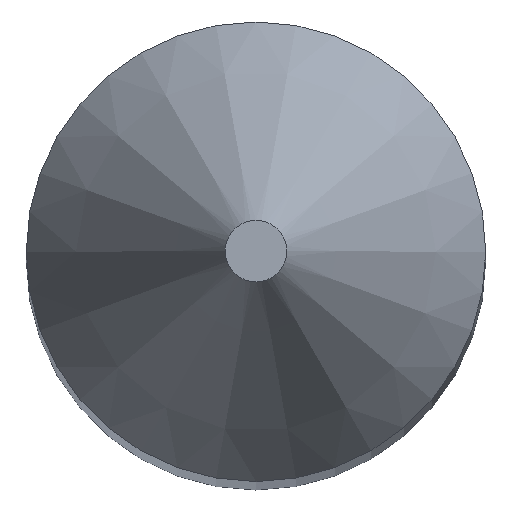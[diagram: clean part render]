
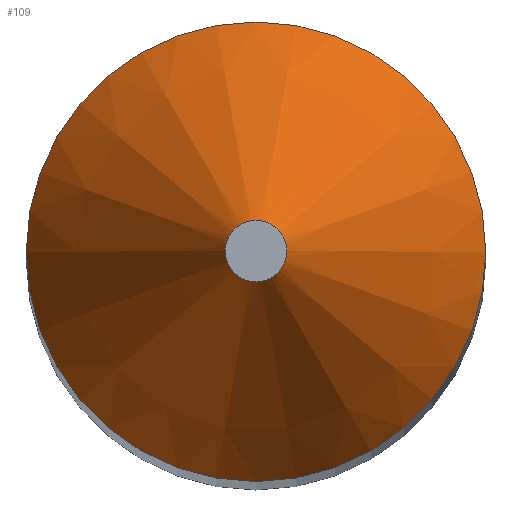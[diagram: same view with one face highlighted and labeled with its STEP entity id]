
A CAD part, top view. The second image highlights one B-rep face of the part: STEP entity #109.
In plain terms, the highlighted conical face has half-angle 30 degrees and reference radius 8 mm.
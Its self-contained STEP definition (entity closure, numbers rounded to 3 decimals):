
#43 = CYLINDRICAL_SURFACE('',#44,8.);
#44 = AXIS2_PLACEMENT_3D('',#45,#46,#47);
#45 = CARTESIAN_POINT('',(0.,0.,-470.));
#46 = DIRECTION('',(0.,0.,1.));
#47 = DIRECTION('',(1.,0.,-0.));
#60 = VERTEX_POINT('',#61);
#61 = CARTESIAN_POINT('',(8.,0.,-302.));
#82 = EDGE_CURVE('',#60,#60,#83,.T.);
#83 = SURFACE_CURVE('',#84,(#89,#96),.PCURVE_S1.);
#84 = CIRCLE('',#85,8.);
#85 = AXIS2_PLACEMENT_3D('',#86,#87,#88);
#86 = CARTESIAN_POINT('',(0.,0.,-302.));
#87 = DIRECTION('',(0.,0.,1.));
#88 = DIRECTION('',(1.,0.,-0.));
#89 = PCURVE('',#43,#90);
#90 = DEFINITIONAL_REPRESENTATION('',(#91),#95);
#91 = LINE('',#92,#93);
#92 = CARTESIAN_POINT('',(0.,168.));
#93 = VECTOR('',#94,1.);
#94 = DIRECTION('',(1.,0.));
#95 = ( GEOMETRIC_REPRESENTATION_CONTEXT(2) 
PARAMETRIC_REPRESENTATION_CONTEXT() REPRESENTATION_CONTEXT('2D SPACE',''
  ) );
#96 = PCURVE('',#97,#102);
#97 = CONICAL_SURFACE('',#98,8.,0.524);
#98 = AXIS2_PLACEMENT_3D('',#99,#100,#101);
#99 = CARTESIAN_POINT('',(0.,0.,-302.));
#100 = DIRECTION('',(-0.,-0.,-1.));
#101 = DIRECTION('',(1.,0.,-0.));
#102 = DEFINITIONAL_REPRESENTATION('',(#103),#107);
#103 = LINE('',#104,#105);
#104 = CARTESIAN_POINT('',(-0.,-0.));
#105 = VECTOR('',#106,1.);
#106 = DIRECTION('',(-1.,-0.));
#107 = ( GEOMETRIC_REPRESENTATION_CONTEXT(2) 
PARAMETRIC_REPRESENTATION_CONTEXT() REPRESENTATION_CONTEXT('2D SPACE',''
  ) );
#109 = ADVANCED_FACE('',(#110),#97,.T.);
#110 = FACE_BOUND('',#111,.T.);
#111 = EDGE_LOOP('',(#112,#113,#136,#163));
#112 = ORIENTED_EDGE('',*,*,#82,.T.);
#113 = ORIENTED_EDGE('',*,*,#114,.T.);
#114 = EDGE_CURVE('',#60,#115,#117,.T.);
#115 = VERTEX_POINT('',#116);
#116 = CARTESIAN_POINT('',(1.072,0.,-290.));
#117 = SEAM_CURVE('',#118,(#122,#129),.PCURVE_S1.);
#118 = LINE('',#119,#120);
#119 = CARTESIAN_POINT('',(8.,0.,-302.));
#120 = VECTOR('',#121,1.);
#121 = DIRECTION('',(-0.5,0.,0.866));
#122 = PCURVE('',#97,#123);
#123 = DEFINITIONAL_REPRESENTATION('',(#124),#128);
#124 = LINE('',#125,#126);
#125 = CARTESIAN_POINT('',(-0.,-0.));
#126 = VECTOR('',#127,1.);
#127 = DIRECTION('',(-0.,-1.));
#128 = ( GEOMETRIC_REPRESENTATION_CONTEXT(2) 
PARAMETRIC_REPRESENTATION_CONTEXT() REPRESENTATION_CONTEXT('2D SPACE',''
  ) );
#129 = PCURVE('',#97,#130);
#130 = DEFINITIONAL_REPRESENTATION('',(#131),#135);
#131 = LINE('',#132,#133);
#132 = CARTESIAN_POINT('',(-6.283,-0.));
#133 = VECTOR('',#134,1.);
#134 = DIRECTION('',(-0.,-1.));
#135 = ( GEOMETRIC_REPRESENTATION_CONTEXT(2) 
PARAMETRIC_REPRESENTATION_CONTEXT() REPRESENTATION_CONTEXT('2D SPACE',''
  ) );
#136 = ORIENTED_EDGE('',*,*,#137,.F.);
#137 = EDGE_CURVE('',#115,#115,#138,.T.);
#138 = SURFACE_CURVE('',#139,(#144,#151),.PCURVE_S1.);
#139 = CIRCLE('',#140,1.072);
#140 = AXIS2_PLACEMENT_3D('',#141,#142,#143);
#141 = CARTESIAN_POINT('',(0.,0.,-290.));
#142 = DIRECTION('',(0.,0.,1.));
#143 = DIRECTION('',(1.,0.,-0.));
#144 = PCURVE('',#97,#145);
#145 = DEFINITIONAL_REPRESENTATION('',(#146),#150);
#146 = LINE('',#147,#148);
#147 = CARTESIAN_POINT('',(-0.,-12.));
#148 = VECTOR('',#149,1.);
#149 = DIRECTION('',(-1.,-0.));
#150 = ( GEOMETRIC_REPRESENTATION_CONTEXT(2) 
PARAMETRIC_REPRESENTATION_CONTEXT() REPRESENTATION_CONTEXT('2D SPACE',''
  ) );
#151 = PCURVE('',#152,#157);
#152 = PLANE('',#153);
#153 = AXIS2_PLACEMENT_3D('',#154,#155,#156);
#154 = CARTESIAN_POINT('',(0.,0.,-290.));
#155 = DIRECTION('',(0.,0.,1.));
#156 = DIRECTION('',(1.,0.,-0.));
#157 = DEFINITIONAL_REPRESENTATION('',(#158),#162);
#158 = CIRCLE('',#159,1.072);
#159 = AXIS2_PLACEMENT_2D('',#160,#161);
#160 = CARTESIAN_POINT('',(0.,0.));
#161 = DIRECTION('',(1.,0.));
#162 = ( GEOMETRIC_REPRESENTATION_CONTEXT(2) 
PARAMETRIC_REPRESENTATION_CONTEXT() REPRESENTATION_CONTEXT('2D SPACE',''
  ) );
#163 = ORIENTED_EDGE('',*,*,#114,.F.);
